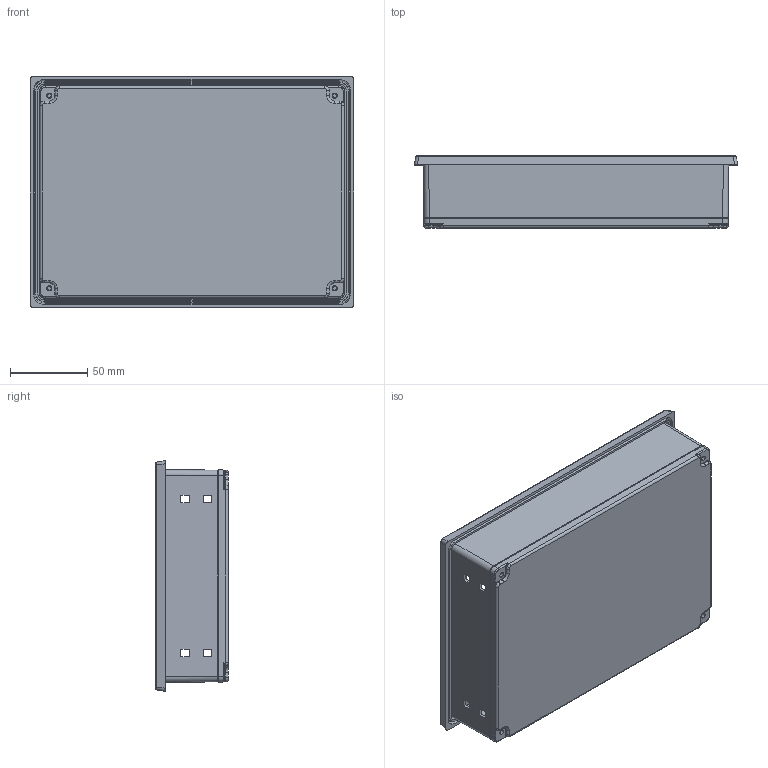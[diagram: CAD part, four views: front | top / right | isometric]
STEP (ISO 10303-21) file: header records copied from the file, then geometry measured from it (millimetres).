
FILE_DESCRIPTION (( 'STEP AP203' ), '1' );
FILE_NAME ('PO358-A.STEP', '2019-10-01T06:52:45', ( '' ), ( '' ), 'SwSTEP 2.0', 'SolidWorks 2019', '' );
FILE_SCHEMA (( 'CONFIG_CONTROL_DESIGN' ));
Length unit declared in the file: millimetre
Products named in the file (3): PO358-A
Assembly tree (2 placements, depth 2):
  PO358-A
    PO358-A
    PO358-A
Bounding box: 209.7 x 46.8 x 149.7 mm (x, y, z)
Volume: 168708.6 mm3; surface area: 169454.3 mm2
Topology: 2 solids, 2 shells, 699 faces, 1856 edges, 1212 vertices
Faces by surface type: plane 423, cylinder 196, cone 44, bspline 32, torus 4
Entity records: 22483 total; most frequent: CARTESIAN_POINT 5460, ORIENTED_EDGE 3712, DIRECTION 3240, EDGE_CURVE 1856, VERTEX_POINT 1212, VECTOR 1176, LINE 1176, AXIS2_PLACEMENT_3D 1032
